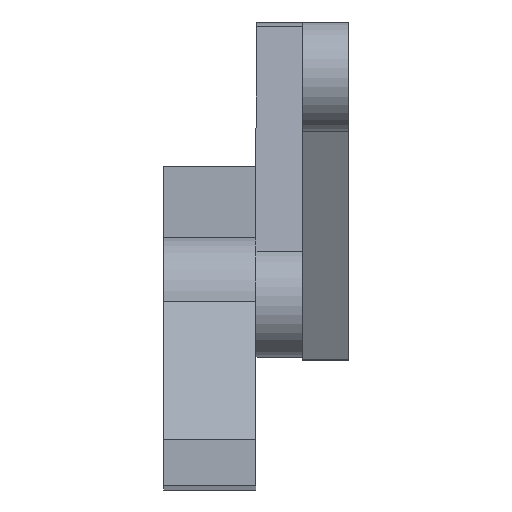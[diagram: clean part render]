
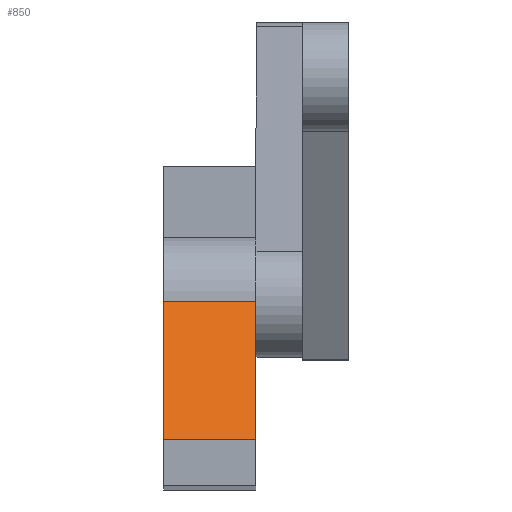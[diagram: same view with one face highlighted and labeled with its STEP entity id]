
A CAD part, top view. The second image highlights one B-rep face of the part: STEP entity #850.
In plain terms, the highlighted planar face has unit normal (0, 0.371, 0.928).
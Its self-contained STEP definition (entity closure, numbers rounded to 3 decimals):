
#11 = EDGE_CURVE ( 'NONE', #755, #190, #457, .T. ) ;
#25 = ORIENTED_EDGE ( 'NONE', *, *, #1720, .T. ) ;
#27 = EDGE_CURVE ( 'NONE', #481, #755, #1753, .T. ) ;
#190 = VERTEX_POINT ( 'NONE', #1919 ) ;
#257 = DIRECTION ( 'NONE',  ( -1., 0., 0. ) ) ;
#358 = CARTESIAN_POINT ( 'NONE',  ( -5., 17.5, 117. ) ) ;
#362 = EDGE_LOOP ( 'NONE', ( #1051, #370, #390, #25 ) ) ;
#370 = ORIENTED_EDGE ( 'NONE', *, *, #11, .F. ) ;
#390 = ORIENTED_EDGE ( 'NONE', *, *, #27, .F. ) ;
#421 = AXIS2_PLACEMENT_3D ( 'NONE', #2159, #827, #1162 ) ;
#457 = LINE ( 'NONE', #1553, #2178 ) ;
#481 = VERTEX_POINT ( 'NONE', #675 ) ;
#557 = VERTEX_POINT ( 'NONE', #358 ) ;
#655 = VECTOR ( 'NONE', #865, 1000. ) ;
#675 = CARTESIAN_POINT ( 'NONE',  ( 5., 17.5, 117. ) ) ;
#713 = LINE ( 'NONE', #2089, #1959 ) ;
#736 = CARTESIAN_POINT ( 'NONE',  ( 5., 2.5, 123. ) ) ;
#755 = VERTEX_POINT ( 'NONE', #736 ) ;
#827 = DIRECTION ( 'NONE',  ( 0., -0.371, -0.928 ) ) ;
#850 = ADVANCED_FACE ( 'NONE', ( #1184 ), #1950, .F. ) ;
#853 = LINE ( 'NONE', #1427, #655 ) ;
#865 = DIRECTION ( 'NONE',  ( -1., 0., 0. ) ) ;
#1051 = ORIENTED_EDGE ( 'NONE', *, *, #2005, .T. ) ;
#1162 = DIRECTION ( 'NONE',  ( 0., 0.928, -0.371 ) ) ;
#1177 = DIRECTION ( 'NONE',  ( 0., -0.928, 0.371 ) ) ;
#1184 = FACE_OUTER_BOUND ( 'NONE', #362, .T. ) ;
#1410 = CARTESIAN_POINT ( 'NONE',  ( 5., 17.5, 117. ) ) ;
#1427 = CARTESIAN_POINT ( 'NONE',  ( 5., 17.5, 117. ) ) ;
#1430 = VECTOR ( 'NONE', #1177, 1000. ) ;
#1553 = CARTESIAN_POINT ( 'NONE',  ( 5., 2.5, 123. ) ) ;
#1720 = EDGE_CURVE ( 'NONE', #481, #557, #853, .T. ) ;
#1753 = LINE ( 'NONE', #1410, #1430 ) ;
#1919 = CARTESIAN_POINT ( 'NONE',  ( -5., 2.5, 123. ) ) ;
#1950 = PLANE ( 'NONE',  #421 ) ;
#1959 = VECTOR ( 'NONE', #2215, 1000. ) ;
#2005 = EDGE_CURVE ( 'NONE', #557, #190, #713, .T. ) ;
#2089 = CARTESIAN_POINT ( 'NONE',  ( -5., 17.5, 117. ) ) ;
#2159 = CARTESIAN_POINT ( 'NONE',  ( 5., 17.5, 117. ) ) ;
#2178 = VECTOR ( 'NONE', #257, 1000. ) ;
#2215 = DIRECTION ( 'NONE',  ( 0., -0.928, 0.371 ) ) ;
